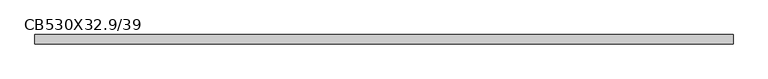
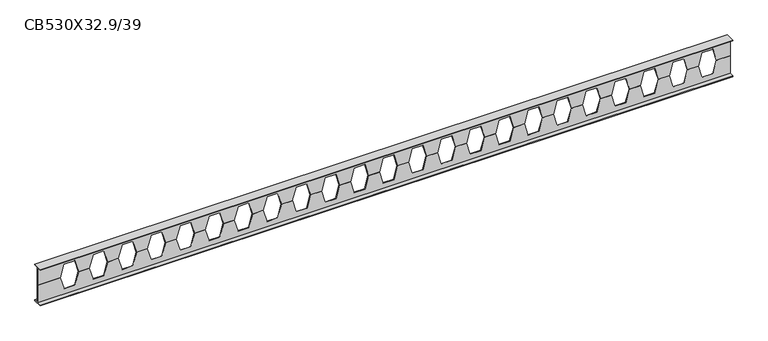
"""IFC4 building model written with IfcOpenShell, lengths in millimetres: beam geometry, Poutre alvéolaire : CB530X32.9/39."""

import ifcopenshell
import ifcopenshell.guid

model = None  # the IFC model being written
_history = None  # IfcOwnerHistory: only IFC2X3 demands one
_inside = {}  # id of a spatial element -> (the spatial element, [elements in it])
_under = {}  # id of a project, library or spatial element -> (it, [spatial elements below it])
_declared = {}  # id of a project -> (the project, [libraries it declares])
_typed = {}  # id of a type object -> (the type object, [elements of that type])
_made_of = {}  # id of a material, layer set ... -> (it, [elements and type objects made of it])


def new_model(schema):
    """Start an empty IFC model of exactly this schema.

    Asked for "IFC4X3", IfcOpenShell would pick the latest addendum, in which some entities
    have other attributes; the version numbers below select the first issue.
    IFC2X3 requires an IfcOwnerHistory on every rooted entity: one is made here for all.
    """
    global model, _history
    if schema == "IFC4X3":
        model = ifcopenshell.file(schema_version=(4, 3, 0, 0))
    else:
        model = ifcopenshell.file(schema=schema)
    _inside.clear()
    _under.clear()
    _declared.clear()
    _typed.clear()
    _made_of.clear()
    _history = None
    if model.schema == "IFC2X3":
        org = make("IfcOrganization", Name="unknown")
        user = make(
            "IfcPersonAndOrganization",
            ThePerson=make("IfcPerson", FamilyName="unknown"),
            TheOrganization=org,
        )
        app = make(
            "IfcApplication",
            ApplicationDeveloper=org,
            Version="unknown",
            ApplicationFullName="unknown",
            ApplicationIdentifier="unknown",
        )
        _history = make(
            "IfcOwnerHistory",
            OwningUser=user,
            OwningApplication=app,
            ChangeAction="ADDED",
            CreationDate=0,
        )
    return model


def make(cls, **values):
    """One entity of the class cls with the attributes given. An attribute that is None is left unset."""
    return model.create_entity(
        cls, **{name: value for name, value in values.items() if value is not None}
    )


def rooted(cls, **values):
    """An entity with a GlobalId (a new one), such as an element, a storey or a relation."""
    return make(cls, GlobalId=ifcopenshell.guid.new(), OwnerHistory=_history, **values)


def si_unit(unit_type, name, prefix=None):
    """IfcSIUnit, for example si_unit("LENGTHUNIT", "METRE", prefix="MILLI")."""
    return make("IfcSIUnit", UnitType=unit_type, Prefix=prefix, Name=name)


def assignment(units):
    """IfcUnitAssignment: the units of a project."""
    return None if units is None else make("IfcUnitAssignment", Units=units)


def point(xyz):
    """IfcCartesianPoint."""
    return None if xyz is None else make("IfcCartesianPoint", Coordinates=xyz)


def direction(xyz):
    """IfcDirection."""
    return None if xyz is None else make("IfcDirection", DirectionRatios=xyz)


def frame(location, z_axis=None, x_axis=None):
    """IfcAxis2Placement3D, a coordinate frame: its origin and axes. An axis left out is left unset."""
    return make(
        "IfcAxis2Placement3D",
        Location=point(location),
        Axis=direction(z_axis),
        RefDirection=direction(x_axis),
    )


def origin():
    """The frame at (0, 0, 0) with its axes left unset."""
    return frame((0.0, 0.0, 0.0))


def place(relative_to, where):
    """IfcLocalPlacement: puts the frame where relative to a parent placement (None: the world)."""
    return make(
        "IfcLocalPlacement", PlacementRelTo=relative_to, RelativePlacement=where
    )


def context(
    kind, dimensions, precision=None, world=None, true_north=None, identifier=None
):
    """IfcGeometricRepresentationContext, for example the 3D "Model" context."""
    return make(
        "IfcGeometricRepresentationContext",
        ContextIdentifier=identifier,
        ContextType=kind,
        CoordinateSpaceDimension=dimensions,
        Precision=precision,
        WorldCoordinateSystem=world,
        TrueNorth=true_north,
    )


def project(units=None, contexts=None):
    """IfcProject with its units and contexts."""
    return rooted(
        "IfcProject",
        Name="project",
        RepresentationContexts=contexts,
        UnitsInContext=assignment(units),
    )


def spatial(cls, under=None, at=None, **own):
    """A site, building, storey or space (cls), placed at a placement, below another one or the project."""
    s = rooted(cls, ObjectPlacement=at, **own)
    if under is not None:
        _under.setdefault(under.id(), (under, []))[1].append(s)
    return s


def faces_of(points, faces, orient=None, outer=None):
    """IfcFace entities. A face is a list of loops; a loop is a list of indices into points, from 0.

    orient and outer hold one flag for each loop. By default every Orientation is true, the
    first loop of a face is its IfcFaceOuterBound and the others are IfcFaceBound.
    """
    made = []
    for i, loops in enumerate(faces):
        bounds = []
        for j, loop in enumerate(loops):
            is_outer = j == 0 if outer is None else outer[i][j]
            bounds.append(
                make(
                    "IfcFaceOuterBound" if is_outer else "IfcFaceBound",
                    Bound=make("IfcPolyLoop", Polygon=[points[k] for k in loop]),
                    Orientation=True if orient is None else orient[i][j],
                )
            )
        made.append(make("IfcFace", Bounds=bounds))
    return made


def faceted_brep(points, faces, orient=None, outer=None, voids=None):
    """IfcFacetedBrep: a solid bounded by flat faces; with voids (closed shells), ...WithVoids."""
    shared = [point(p) for p in points]
    hull = make("IfcClosedShell", CfsFaces=faces_of(shared, faces, orient, outer))
    if voids is None:
        return make("IfcFacetedBrep", Outer=hull)
    return make(
        "IfcFacetedBrepWithVoids",
        Outer=hull,
        Voids=[
            make(cls, CfsFaces=faces_of(shared, fs, o, b)) for cls, fs, o, b in voids
        ],
    )


def shape(context_of_items, identifier, shape_type, items):
    """IfcShapeRepresentation: the items that make up one representation, for example the "Body"."""
    return make(
        "IfcShapeRepresentation",
        ContextOfItems=context_of_items,
        RepresentationIdentifier=identifier,
        RepresentationType=shape_type,
        Items=items,
    )


def source(mapping_origin, context_of_items, identifier, shape_type, items):
    """IfcRepresentationMap: a shape defined once, which mapped items show again and again."""
    return make(
        "IfcRepresentationMap",
        MappingOrigin=mapping_origin,
        MappedRepresentation=shape(context_of_items, identifier, shape_type, items),
    )


def transform(
    local_origin,
    x_axis=None,
    y_axis=None,
    z_axis=None,
    scale=None,
    scale2=None,
    scale3=None,
    uniform=True,
):
    """IfcCartesianTransformationOperator3D, or its non-uniform kind. x_axis, y_axis, z_axis: its Axis1, 2, 3."""
    if uniform:
        return make(
            "IfcCartesianTransformationOperator3D",
            Axis1=direction(x_axis),
            Axis2=direction(y_axis),
            LocalOrigin=point(local_origin),
            Scale=scale,
            Axis3=direction(z_axis),
        )
    return make(
        "IfcCartesianTransformationOperator3DnonUniform",
        Axis1=direction(x_axis),
        Axis2=direction(y_axis),
        LocalOrigin=point(local_origin),
        Scale=scale,
        Axis3=direction(z_axis),
        Scale2=scale2,
        Scale3=scale3,
    )


def mapped(mapping_source, mapping_target):
    """IfcMappedItem: shows the shape of a source again, moved by a transform."""
    return make(
        "IfcMappedItem", MappingSource=mapping_source, MappingTarget=mapping_target
    )


def made_of(thing, what):
    """Note that an element or type object is made of a material, layer set ...; save() writes the relation."""
    if what is not None:
        _made_of.setdefault(what.id(), (what, []))[1].append(thing)
    return thing


def element(
    cls,
    number,
    at=None,
    inside=None,
    cuts=None,
    type_object=None,
    material=None,
    context=None,
    identifier="Body",
    shape_type=None,
    held_by="IfcProductDefinitionShape",
    body=None,
    shapes=None,
    **own,
):
    """One element of the class cls, such as IfcWall. Its Tag is "e" and its number.

    at: its placement. inside: the storey or other place that contains it. cuts: it is an
    opening in that element (IfcRelVoidsElement). A single representation is given by context,
    identifier, shape_type and body (its items); several are given by shapes. held_by: the class
    of the entity that holds the representations. save() writes the other relations.
    """
    e = rooted(cls, Tag="e%d" % number, ObjectPlacement=at, **own)
    if body is not None:
        shapes = [shape(context, identifier, shape_type, body)]
    if shapes is not None:
        e.Representation = make(held_by, Representations=shapes)
    if inside is not None:
        _inside.setdefault(inside.id(), (inside, []))[1].append(e)
    if cuts is not None:
        rooted(
            "IfcRelVoidsElement", RelatingBuildingElement=cuts, RelatedOpeningElement=e
        )
    if type_object is not None:
        _typed.setdefault(type_object.id(), (type_object, []))[1].append(e)
    return made_of(e, material)


def aggregate(whole, parts):
    """IfcRelAggregates: a whole, such as a stair, and the parts it consists of."""
    return rooted("IfcRelAggregates", RelatingObject=whole, RelatedObjects=parts)


def save(model, path):
    """Write the relations noted so far, then the file.

    IfcRelAggregates (storeys below a building ...), IfcRelContainedInSpatialStructure (elements
    in a storey), IfcRelDefinesByType, IfcRelAssociatesMaterial and IfcRelDeclares: one each for
    every whole, place, type object, material and project.
    """
    for whole, parts in _under.values():
        aggregate(whole, parts)
    for where, things in _inside.values():
        rooted(
            "IfcRelContainedInSpatialStructure",
            RelatedElements=things,
            RelatingStructure=where,
        )
    for kind, things in _typed.values():
        rooted("IfcRelDefinesByType", RelatedObjects=things, RelatingType=kind)
    for what, things in _made_of.values():
        rooted("IfcRelAssociatesMaterial", RelatedObjects=things, RelatingMaterial=what)
    for by, libraries in _declared.values():
        rooted("IfcRelDeclares", RelatingContext=by, RelatedDefinitions=libraries)
    model.write(path)


def cb530x32_9_39_18e86786(model_context):
    return source(origin(), model_context, "Body", "Brep", [
        faceted_brep([(4732.0, 64.0, -255.8), (4732.0, 3.25, -255.8), (4732.0, 3.25, 0.0), (4732.0, -3.25, 0.0), (4732.0, -3.25, -255.8), (4732.0, -64.0, -255.8), (4732.0, -64.0, -266.5), (4732.0, 64.0, -266.5), (-4857.0, 3.25, -255.8), (-4857.0, 64.0, -255.8), (-4857.0, 64.0, -266.5), (-4857.0, -64.0, -266.5), (-4857.0, -64.0, -255.8), (-4857.0, -3.25, -255.8), (-4857.0, -3.25, 0.0), (-4857.0, 3.25, 0.0), (-4543.9, 3.25, 0.0), (-4493.1, 3.25, -180.0), (-4343.1, 3.25, -180.0), (-4292.3, 3.25, 0.0), (-4142.2545455, 3.25, 0.0), (-4091.4545455, 3.25, -180.0), (-3941.4545455, 3.25, -180.0), (-3890.6545455, 3.25, 0.0), (-3740.6090909, 3.25, 0.0), (-3689.8090909, 3.25, -180.0), (-3539.8090909, 3.25, -180.0), (-3489.0090909, 3.25, 0.0), (-3338.9636364, 3.25, 0.0), (-3288.1636364, 3.25, -180.0), (-3138.1636364, 3.25, -180.0), (-3087.3636364, 3.25, 0.0), (-2937.3181818, 3.25, 0.0), (-2886.5181818, 3.25, -180.0), (-2736.5181818, 3.25, -180.0), (-2685.7181818, 3.25, 0.0), (-2535.6727273, 3.25, 0.0), (-2484.8727273, 3.25, -180.0), (-2334.8727273, 3.25, -180.0), (-2284.0727273, 3.25, 0.0), (-2134.0272727, 3.25, 0.0), (-2083.2272727, 3.25, -180.0), (-1933.2272727, 3.25, -180.0), (-1882.4272727, 3.25, 0.0), (-1732.3818182, 3.25, 0.0), (-1681.5818182, 3.25, -180.0), (-1531.5818182, 3.25, -180.0), (-1480.7818182, 3.25, 0.0), (-1330.7363636, 3.25, 0.0), (-1279.9363636, 3.25, -180.0), (-1129.9363636, 3.25, -180.0), (-1079.1363636, 3.25, 0.0), (-929.0909091, 3.25, 0.0), (-878.2909091, 3.25, -180.0), (-728.2909091, 3.25, -180.0), (-677.4909091, 3.25, 0.0), (-527.4454545, 3.25, 0.0), (-476.6454545, 3.25, -180.0), (-326.6454545, 3.25, -180.0), (-275.8454545, 3.25, 0.0), (-125.8, 3.25, 0.0), (-75.0, 3.25, -180.0), (75.0, 3.25, -180.0), (125.8, 3.25, 0.0), (275.8454545, 3.25, 0.0), (326.6454545, 3.25, -180.0), (476.6454545, 3.25, -180.0), (527.4454545, 3.25, 0.0), (677.4909091, 3.25, 0.0), (728.2909091, 3.25, -180.0), (878.2909091, 3.25, -180.0), (929.0909091, 3.25, 0.0), (1079.1363636, 3.25, 0.0), (1129.9363636, 3.25, -180.0), (1279.9363636, 3.25, -180.0), (1330.7363636, 3.25, 0.0), (1480.7818182, 3.25, 0.0), (1531.5818182, 3.25, -180.0), (1681.5818182, 3.25, -180.0), (1732.3818182, 3.25, 0.0), (1882.4272727, 3.25, 0.0), (1933.2272727, 3.25, -180.0), (2083.2272727, 3.25, -180.0), (2134.0272727, 3.25, 0.0), (2284.0727273, 3.25, 0.0), (2334.8727273, 3.25, -180.0), (2484.8727273, 3.25, -180.0), (2535.6727273, 3.25, 0.0), (2685.7181818, 3.25, 0.0), (2736.5181818, 3.25, -180.0), (2886.5181818, 3.25, -180.0), (2937.3181818, 3.25, 0.0), (3087.3636364, 3.25, 0.0), (3138.1636364, 3.25, -180.0), (3288.1636364, 3.25, -180.0), (3338.9636364, 3.25, 0.0), (3489.0090909, 3.25, 0.0), (3539.8090909, 3.25, -180.0), (3689.8090909, 3.25, -180.0), (3740.6090909, 3.25, 0.0), (3890.6545455, 3.25, 0.0), (3941.4545455, 3.25, -180.0), (4091.4545455, 3.25, -180.0), (4142.2545455, 3.25, 0.0), (4292.3, 3.25, 0.0), (4343.1, 3.25, -180.0), (4493.1, 3.25, -180.0), (4543.9, 3.25, 0.0), (4543.9, -3.25, 0.0), (-4543.9, -3.25, 0.0), (-4142.2545455, -3.25, 0.0), (-4292.3, -3.25, 0.0), (-3890.6545455, -3.25, 0.0), (-3740.6090909, -3.25, 0.0), (4292.3, -3.25, 0.0), (4142.2545455, -3.25, 0.0), (-3489.0090909, -3.25, 0.0), (-3338.9636364, -3.25, 0.0), (-3087.3636364, -3.25, 0.0), (-2937.3181818, -3.25, 0.0), (-2685.7181818, -3.25, 0.0), (-2535.6727273, -3.25, 0.0), (-2284.0727273, -3.25, 0.0), (-2134.0272727, -3.25, 0.0), (-1882.4272727, -3.25, 0.0), (-1732.3818182, -3.25, 0.0), (-1480.7818182, -3.25, 0.0), (-1330.7363636, -3.25, 0.0), (-1079.1363636, -3.25, 0.0), (-929.0909091, -3.25, 0.0), (-677.4909091, -3.25, 0.0), (-527.4454545, -3.25, 0.0), (-275.8454545, -3.25, 0.0), (-125.8, -3.25, 0.0), (125.8, -3.25, 0.0), (275.8454545, -3.25, 0.0), (527.4454545, -3.25, 0.0), (677.4909091, -3.25, 0.0), (929.0909091, -3.25, 0.0), (1079.1363636, -3.25, 0.0), (1330.7363636, -3.25, 0.0), (1480.7818182, -3.25, 0.0), (1732.3818182, -3.25, 0.0), (1882.4272727, -3.25, 0.0), (2134.0272727, -3.25, 0.0), (2284.0727273, -3.25, 0.0), (2535.6727273, -3.25, 0.0), (2685.7181818, -3.25, 0.0), (2937.3181818, -3.25, 0.0), (3087.3636364, -3.25, 0.0), (3338.9636364, -3.25, 0.0), (3489.0090909, -3.25, 0.0), (3740.6090909, -3.25, 0.0), (3890.6545455, -3.25, 0.0), (4493.1, -3.25, -180.0), (4343.1, -3.25, -180.0), (4091.4545455, -3.25, -180.0), (3941.4545455, -3.25, -180.0), (3689.8090909, -3.25, -180.0), (3539.8090909, -3.25, -180.0), (3288.1636364, -3.25, -180.0), (3138.1636364, -3.25, -180.0), (2886.5181818, -3.25, -180.0), (2736.5181818, -3.25, -180.0), (2484.8727273, -3.25, -180.0), (2334.8727273, -3.25, -180.0), (2083.2272727, -3.25, -180.0), (1933.2272727, -3.25, -180.0), (1681.5818182, -3.25, -180.0), (1531.5818182, -3.25, -180.0), (1279.9363636, -3.25, -180.0), (1129.9363636, -3.25, -180.0), (878.2909091, -3.25, -180.0), (728.2909091, -3.25, -180.0), (476.6454545, -3.25, -180.0), (326.6454545, -3.25, -180.0), (75.0, -3.25, -180.0), (-75.0, -3.25, -180.0), (-326.6454545, -3.25, -180.0), (-476.6454545, -3.25, -180.0), (-728.2909091, -3.25, -180.0), (-878.2909091, -3.25, -180.0), (-1129.9363636, -3.25, -180.0), (-1279.9363636, -3.25, -180.0), (-1531.5818182, -3.25, -180.0), (-1681.5818182, -3.25, -180.0), (-1933.2272727, -3.25, -180.0), (-2083.2272727, -3.25, -180.0), (-2334.8727273, -3.25, -180.0), (-2484.8727273, -3.25, -180.0), (-2736.5181818, -3.25, -180.0), (-2886.5181818, -3.25, -180.0), (-3138.1636364, -3.25, -180.0), (-3288.1636364, -3.25, -180.0), (-3539.8090909, -3.25, -180.0), (-3689.8090909, -3.25, -180.0), (-3941.4545455, -3.25, -180.0), (-4091.4545455, -3.25, -180.0), (-4343.1, -3.25, -180.0), (-4493.1, -3.25, -180.0)], [[[0, 1, 2, 3, 4, 5, 6, 7]], [[8, 9, 10, 11, 12, 13, 14, 15]], [[1, 0, 9, 8]], [[2, 1, 8, 15, 16, 17, 18, 19, 20, 21, 22, 23, 24, 25, 26, 27, 28, 29, 30, 31, 32, 33, 34, 35, 36, 37, 38, 39, 40, 41, 42, 43, 44, 45, 46, 47, 48, 49, 50, 51, 52, 53, 54, 55, 56, 57, 58, 59, 60, 61, 62, 63, 64, 65, 66, 67, 68, 69, 70, 71, 72, 73, 74, 75, 76, 77, 78, 79, 80, 81, 82, 83, 84, 85, 86, 87, 88, 89, 90, 91, 92, 93, 94, 95, 96, 97, 98, 99, 100, 101, 102, 103, 104, 105, 106, 107]], [[3, 2, 107, 108]], [[15, 14, 109, 16]], [[110, 20, 19, 111]], [[23, 112, 113, 24]], [[114, 104, 103, 115]], [[27, 116, 117, 28]], [[31, 118, 119, 32]], [[35, 120, 121, 36]], [[39, 122, 123, 40]], [[43, 124, 125, 44]], [[47, 126, 127, 48]], [[51, 128, 129, 52]], [[55, 130, 131, 56]], [[59, 132, 133, 60]], [[63, 134, 135, 64]], [[67, 136, 137, 68]], [[71, 138, 139, 72]], [[75, 140, 141, 76]], [[79, 142, 143, 80]], [[83, 144, 145, 84]], [[87, 146, 147, 88]], [[91, 148, 149, 92]], [[95, 150, 151, 96]], [[99, 152, 153, 100]], [[4, 3, 108, 154, 155, 114, 115, 156, 157, 153, 152, 158, 159, 151, 150, 160, 161, 149, 148, 162, 163, 147, 146, 164, 165, 145, 144, 166, 167, 143, 142, 168, 169, 141, 140, 170, 171, 139, 138, 172, 173, 137, 136, 174, 175, 135, 134, 176, 177, 133, 132, 178, 179, 131, 130, 180, 181, 129, 128, 182, 183, 127, 126, 184, 185, 125, 124, 186, 187, 123, 122, 188, 189, 121, 120, 190, 191, 119, 118, 192, 193, 117, 116, 194, 195, 113, 112, 196, 197, 110, 111, 198, 199, 109, 14, 13]], [[5, 4, 13, 12]], [[6, 5, 12, 11]], [[7, 6, 11, 10]], [[0, 7, 10, 9]], [[197, 21, 20, 110]], [[21, 197, 196, 22]], [[22, 196, 112, 23]], [[155, 105, 104, 114]], [[105, 155, 154, 106]], [[106, 154, 108, 107]], [[199, 17, 16, 109]], [[17, 199, 198, 18]], [[18, 198, 111, 19]], [[195, 25, 24, 113]], [[25, 195, 194, 26]], [[26, 194, 116, 27]], [[193, 29, 28, 117]], [[29, 193, 192, 30]], [[30, 192, 118, 31]], [[191, 33, 32, 119]], [[33, 191, 190, 34]], [[34, 190, 120, 35]], [[189, 37, 36, 121]], [[37, 189, 188, 38]], [[38, 188, 122, 39]], [[187, 41, 40, 123]], [[41, 187, 186, 42]], [[42, 186, 124, 43]], [[185, 45, 44, 125]], [[45, 185, 184, 46]], [[46, 184, 126, 47]], [[183, 49, 48, 127]], [[49, 183, 182, 50]], [[50, 182, 128, 51]], [[181, 53, 52, 129]], [[53, 181, 180, 54]], [[54, 180, 130, 55]], [[179, 57, 56, 131]], [[57, 179, 178, 58]], [[58, 178, 132, 59]], [[177, 61, 60, 133]], [[61, 177, 176, 62]], [[62, 176, 134, 63]], [[175, 65, 64, 135]], [[65, 175, 174, 66]], [[66, 174, 136, 67]], [[173, 69, 68, 137]], [[69, 173, 172, 70]], [[70, 172, 138, 71]], [[171, 73, 72, 139]], [[73, 171, 170, 74]], [[74, 170, 140, 75]], [[169, 77, 76, 141]], [[77, 169, 168, 78]], [[78, 168, 142, 79]], [[167, 81, 80, 143]], [[81, 167, 166, 82]], [[82, 166, 144, 83]], [[165, 85, 84, 145]], [[85, 165, 164, 86]], [[86, 164, 146, 87]], [[163, 89, 88, 147]], [[89, 163, 162, 90]], [[90, 162, 148, 91]], [[161, 93, 92, 149]], [[93, 161, 160, 94]], [[94, 160, 150, 95]], [[159, 97, 96, 151]], [[97, 159, 158, 98]], [[98, 158, 152, 99]], [[157, 101, 100, 153]], [[101, 157, 156, 102]], [[102, 156, 115, 103]]]),
        faceted_brep([(4732.0, 2.9, 0.0), (4732.0, 2.9, 256.0), (4732.0, 63.5, 256.0), (4732.0, 63.5, 264.5), (4732.0, -63.5, 264.5), (4732.0, -63.5, 256.0), (4732.0, -2.9, 256.0), (4732.0, -2.9, 0.0), (-4857.0, 2.9, 256.0), (-4857.0, 2.9, 0.0), (-4857.0, -2.9, 0.0), (-4857.0, -2.9, 256.0), (-4857.0, -63.5, 256.0), (-4857.0, -63.5, 264.5), (-4857.0, 63.5, 264.5), (-4857.0, 63.5, 256.0), (4543.9, 2.9, 0.0), (4493.1, 2.9, 180.0), (4343.1, 2.9, 180.0), (4292.3, 2.9, 0.0), (4142.2545455, 2.9, 0.0), (4091.4545455, 2.9, 180.0), (3941.4545455, 2.9, 180.0), (3890.6545455, 2.9, 0.0), (3740.6090909, 2.9, 0.0), (3689.8090909, 2.9, 180.0), (3539.8090909, 2.9, 180.0), (3489.0090909, 2.9, 0.0), (3338.9636364, 2.9, 0.0), (3288.1636364, 2.9, 180.0), (3138.1636364, 2.9, 180.0), (3087.3636364, 2.9, 0.0), (2937.3181818, 2.9, 0.0), (2886.5181818, 2.9, 180.0), (2736.5181818, 2.9, 180.0), (2685.7181818, 2.9, 0.0), (2535.6727273, 2.9, 0.0), (2484.8727273, 2.9, 180.0), (2334.8727273, 2.9, 180.0), (2284.0727273, 2.9, 0.0), (2134.0272727, 2.9, 0.0), (2083.2272727, 2.9, 180.0), (1933.2272727, 2.9, 180.0), (1882.4272727, 2.9, 0.0), (1732.3818182, 2.9, 0.0), (1681.5818182, 2.9, 180.0), (1531.5818182, 2.9, 180.0), (1480.7818182, 2.9, 0.0), (1330.7363636, 2.9, 0.0), (1279.9363636, 2.9, 180.0), (1129.9363636, 2.9, 180.0), (1079.1363636, 2.9, 0.0), (929.0909091, 2.9, 0.0), (878.2909091, 2.9, 180.0), (728.2909091, 2.9, 180.0), (677.4909091, 2.9, 0.0), (527.4454545, 2.9, 0.0), (476.6454545, 2.9, 180.0), (326.6454545, 2.9, 180.0), (275.8454545, 2.9, 0.0), (125.8, 2.9, 0.0), (75.0, 2.9, 180.0), (-75.0, 2.9, 180.0), (-125.8, 2.9, 0.0), (-275.8454545, 2.9, 0.0), (-326.6454545, 2.9, 180.0), (-476.6454545, 2.9, 180.0), (-527.4454545, 2.9, 0.0), (-677.4909091, 2.9, 0.0), (-728.2909091, 2.9, 180.0), (-878.2909091, 2.9, 180.0), (-929.0909091, 2.9, 0.0), (-1079.1363636, 2.9, 0.0), (-1129.9363636, 2.9, 180.0), (-1279.9363636, 2.9, 180.0), (-1330.7363636, 2.9, 0.0), (-1480.7818182, 2.9, 0.0), (-1531.5818182, 2.9, 180.0), (-1681.5818182, 2.9, 180.0), (-1732.3818182, 2.9, 0.0), (-1882.4272727, 2.9, 0.0), (-1933.2272727, 2.9, 180.0), (-2083.2272727, 2.9, 180.0), (-2134.0272727, 2.9, 0.0), (-2284.0727273, 2.9, 0.0), (-2334.8727273, 2.9, 180.0), (-2484.8727273, 2.9, 180.0), (-2535.6727273, 2.9, 0.0), (-2685.7181818, 2.9, 0.0), (-2736.5181818, 2.9, 180.0), (-2886.5181818, 2.9, 180.0), (-2937.3181818, 2.9, 0.0), (-3087.3636364, 2.9, 0.0), (-3138.1636364, 2.9, 180.0), (-3288.1636364, 2.9, 180.0), (-3338.9636364, 2.9, 0.0), (-3489.0090909, 2.9, 0.0), (-3539.8090909, 2.9, 180.0), (-3689.8090909, 2.9, 180.0), (-3740.6090909, 2.9, 0.0), (-3890.6545455, 2.9, 0.0), (-3941.4545455, 2.9, 180.0), (-4091.4545455, 2.9, 180.0), (-4142.2545455, 2.9, 0.0), (-4292.3, 2.9, 0.0), (-4343.1, 2.9, 180.0), (-4493.1, 2.9, 180.0), (-4543.9, 2.9, 0.0), (-4543.9, -2.9, 0.0), (-4493.1, -2.9, 180.0), (-4343.1, -2.9, 180.0), (-4292.3, -2.9, 0.0), (-4142.2545455, -2.9, 0.0), (-4091.4545455, -2.9, 180.0), (-3941.4545455, -2.9, 180.0), (-3890.6545455, -2.9, 0.0), (-3740.6090909, -2.9, 0.0), (-3689.8090909, -2.9, 180.0), (-3539.8090909, -2.9, 180.0), (-3489.0090909, -2.9, 0.0), (-3338.9636364, -2.9, 0.0), (-3288.1636364, -2.9, 180.0), (-3138.1636364, -2.9, 180.0), (-3087.3636364, -2.9, 0.0), (-2937.3181818, -2.9, 0.0), (-2886.5181818, -2.9, 180.0), (-2736.5181818, -2.9, 180.0), (-2685.7181818, -2.9, 0.0), (-2535.6727273, -2.9, 0.0), (-2484.8727273, -2.9, 180.0), (-2334.8727273, -2.9, 180.0), (-2284.0727273, -2.9, 0.0), (-2134.0272727, -2.9, 0.0), (-2083.2272727, -2.9, 180.0), (-1933.2272727, -2.9, 180.0), (-1882.4272727, -2.9, 0.0), (-1732.3818182, -2.9, 0.0), (-1681.5818182, -2.9, 180.0), (-1531.5818182, -2.9, 180.0), (-1480.7818182, -2.9, 0.0), (-1330.7363636, -2.9, 0.0), (-1279.9363636, -2.9, 180.0), (-1129.9363636, -2.9, 180.0), (-1079.1363636, -2.9, 0.0), (-929.0909091, -2.9, 0.0), (-878.2909091, -2.9, 180.0), (-728.2909091, -2.9, 180.0), (-677.4909091, -2.9, 0.0), (-527.4454545, -2.9, 0.0), (-476.6454545, -2.9, 180.0), (-326.6454545, -2.9, 180.0), (-275.8454545, -2.9, 0.0), (-125.8, -2.9, 0.0), (-75.0, -2.9, 180.0), (75.0, -2.9, 180.0), (125.8, -2.9, 0.0), (275.8454545, -2.9, 0.0), (326.6454545, -2.9, 180.0), (476.6454545, -2.9, 180.0), (527.4454545, -2.9, 0.0), (677.4909091, -2.9, 0.0), (728.2909091, -2.9, 180.0), (878.2909091, -2.9, 180.0), (929.0909091, -2.9, 0.0), (1079.1363636, -2.9, 0.0), (1129.9363636, -2.9, 180.0), (1279.9363636, -2.9, 180.0), (1330.7363636, -2.9, 0.0), (1480.7818182, -2.9, 0.0), (1531.5818182, -2.9, 180.0), (1681.5818182, -2.9, 180.0), (1732.3818182, -2.9, 0.0), (1882.4272727, -2.9, 0.0), (1933.2272727, -2.9, 180.0), (2083.2272727, -2.9, 180.0), (2134.0272727, -2.9, 0.0), (2284.0727273, -2.9, 0.0), (2334.8727273, -2.9, 180.0), (2484.8727273, -2.9, 180.0), (2535.6727273, -2.9, 0.0), (2685.7181818, -2.9, 0.0), (2736.5181818, -2.9, 180.0), (2886.5181818, -2.9, 180.0), (2937.3181818, -2.9, 0.0), (3087.3636364, -2.9, 0.0), (3138.1636364, -2.9, 180.0), (3288.1636364, -2.9, 180.0), (3338.9636364, -2.9, 0.0), (3489.0090909, -2.9, 0.0), (3539.8090909, -2.9, 180.0), (3689.8090909, -2.9, 180.0), (3740.6090909, -2.9, 0.0), (3890.6545455, -2.9, 0.0), (3941.4545455, -2.9, 180.0), (4091.4545455, -2.9, 180.0), (4142.2545455, -2.9, 0.0), (4292.3, -2.9, 0.0), (4343.1, -2.9, 180.0), (4493.1, -2.9, 180.0), (4543.9, -2.9, 0.0)], [[[0, 1, 2, 3, 4, 5, 6, 7]], [[8, 9, 10, 11, 12, 13, 14, 15]], [[1, 0, 16, 17, 18, 19, 20, 21, 22, 23, 24, 25, 26, 27, 28, 29, 30, 31, 32, 33, 34, 35, 36, 37, 38, 39, 40, 41, 42, 43, 44, 45, 46, 47, 48, 49, 50, 51, 52, 53, 54, 55, 56, 57, 58, 59, 60, 61, 62, 63, 64, 65, 66, 67, 68, 69, 70, 71, 72, 73, 74, 75, 76, 77, 78, 79, 80, 81, 82, 83, 84, 85, 86, 87, 88, 89, 90, 91, 92, 93, 94, 95, 96, 97, 98, 99, 100, 101, 102, 103, 104, 105, 106, 107, 9, 8]], [[2, 1, 8, 15]], [[3, 2, 15, 14]], [[4, 3, 14, 13]], [[5, 4, 13, 12]], [[6, 5, 12, 11]], [[7, 6, 11, 10, 108, 109, 110, 111, 112, 113, 114, 115, 116, 117, 118, 119, 120, 121, 122, 123, 124, 125, 126, 127, 128, 129, 130, 131, 132, 133, 134, 135, 136, 137, 138, 139, 140, 141, 142, 143, 144, 145, 146, 147, 148, 149, 150, 151, 152, 153, 154, 155, 156, 157, 158, 159, 160, 161, 162, 163, 164, 165, 166, 167, 168, 169, 170, 171, 172, 173, 174, 175, 176, 177, 178, 179, 180, 181, 182, 183, 184, 185, 186, 187, 188, 189, 190, 191, 192, 193, 194, 195, 196, 197, 198, 199]], [[0, 7, 199, 16]], [[10, 9, 107, 108]], [[103, 112, 111, 104]], [[115, 100, 99, 116]], [[19, 196, 195, 20]], [[119, 96, 95, 120]], [[123, 92, 91, 124]], [[127, 88, 87, 128]], [[131, 84, 83, 132]], [[135, 80, 79, 136]], [[139, 76, 75, 140]], [[143, 72, 71, 144]], [[147, 68, 67, 148]], [[151, 64, 63, 152]], [[155, 60, 59, 156]], [[159, 56, 55, 160]], [[163, 52, 51, 164]], [[167, 48, 47, 168]], [[171, 44, 43, 172]], [[175, 40, 39, 176]], [[179, 36, 35, 180]], [[183, 32, 31, 184]], [[187, 28, 27, 188]], [[191, 24, 23, 192]], [[102, 113, 112, 103]], [[113, 102, 101, 114]], [[114, 101, 100, 115]], [[18, 197, 196, 19]], [[197, 18, 17, 198]], [[198, 17, 16, 199]], [[106, 109, 108, 107]], [[109, 106, 105, 110]], [[110, 105, 104, 111]], [[98, 117, 116, 99]], [[117, 98, 97, 118]], [[118, 97, 96, 119]], [[94, 121, 120, 95]], [[121, 94, 93, 122]], [[122, 93, 92, 123]], [[90, 125, 124, 91]], [[125, 90, 89, 126]], [[126, 89, 88, 127]], [[86, 129, 128, 87]], [[129, 86, 85, 130]], [[130, 85, 84, 131]], [[82, 133, 132, 83]], [[133, 82, 81, 134]], [[134, 81, 80, 135]], [[78, 137, 136, 79]], [[137, 78, 77, 138]], [[138, 77, 76, 139]], [[74, 141, 140, 75]], [[141, 74, 73, 142]], [[142, 73, 72, 143]], [[70, 145, 144, 71]], [[145, 70, 69, 146]], [[146, 69, 68, 147]], [[66, 149, 148, 67]], [[149, 66, 65, 150]], [[150, 65, 64, 151]], [[62, 153, 152, 63]], [[153, 62, 61, 154]], [[154, 61, 60, 155]], [[58, 157, 156, 59]], [[157, 58, 57, 158]], [[158, 57, 56, 159]], [[54, 161, 160, 55]], [[161, 54, 53, 162]], [[162, 53, 52, 163]], [[50, 165, 164, 51]], [[165, 50, 49, 166]], [[166, 49, 48, 167]], [[46, 169, 168, 47]], [[169, 46, 45, 170]], [[170, 45, 44, 171]], [[42, 173, 172, 43]], [[173, 42, 41, 174]], [[174, 41, 40, 175]], [[38, 177, 176, 39]], [[177, 38, 37, 178]], [[178, 37, 36, 179]], [[34, 181, 180, 35]], [[181, 34, 33, 182]], [[182, 33, 32, 183]], [[30, 185, 184, 31]], [[185, 30, 29, 186]], [[186, 29, 28, 187]], [[26, 189, 188, 27]], [[189, 26, 25, 190]], [[190, 25, 24, 191]], [[22, 193, 192, 23]], [[193, 22, 21, 194]], [[194, 21, 20, 195]]]),
    ])


if __name__ == "__main__":
    model = new_model("IFC4")
    model_context = context("Model", 3, world=origin())
    ifc_project = project(units=[si_unit("LENGTHUNIT", "METRE", prefix="MILLI")], contexts=[model_context])
    site = spatial("IfcSite", under=ifc_project)
    building = spatial("IfcBuilding", under=site)
    placement = place(None, origin())
    cb530x32_9_39_shape = cb530x32_9_39_18e86786(model_context)
    element("IfcBeam", 1, ObjectType="Poutre alvéolaire : CB530X32.9/39", at=placement, inside=building, context=model_context, shape_type="MappedRepresentation", body=[
        mapped(cb530x32_9_39_shape, transform((0.0, 0.0, 0.0), x_axis=(1.0, 0.0, 0.0), y_axis=(0.0, 1.0, 0.0), z_axis=(0.0, 0.0, 1.0))),
    ])
    save(model, "model.ifc")
